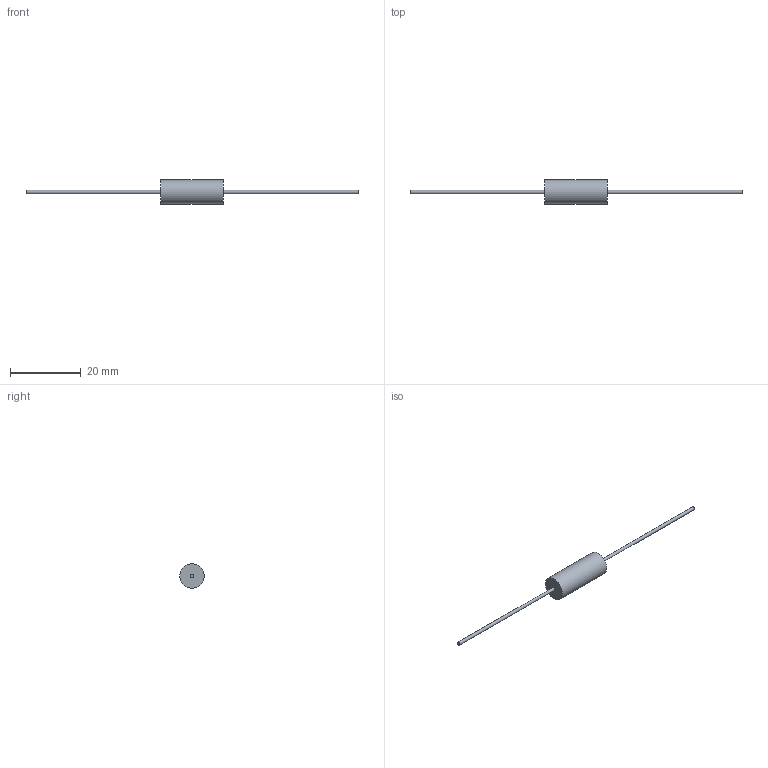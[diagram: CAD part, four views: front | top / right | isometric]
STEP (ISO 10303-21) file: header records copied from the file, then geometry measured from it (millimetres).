
FILE_DESCRIPTION(/* description */ (''),/* implementation_level */ '2;1');
FILE_NAME(/* name */ 'C:\Users\mulla\Documents\SEI Models\Inventor Files\WW_MWW_NWW_WWS\3D\WW4_WWS5_NWW4_NWWS5_stp.stp',/* time_stamp */ '2019-07-10T21:32:57-04:00',/* author */ ('mulla'),/* organization */ (''),/* preprocessor_version */ 'ST-DEVELOPER v16.1',/* originating_system */ 'Autodesk Inventor 2016',/* authorisation */ '');
FILE_SCHEMA (('AUTOMOTIVE_DESIGN { 1 0 10303 214 3 1 1 }'));
Length unit declared in the file: millimetre
Products named in the file (1): WW4_WWS5_NWW4_NWWS5
Bounding box: 93.98 x 6.86 x 6.86 mm (x, y, z)
Volume: 706.7 mm3; surface area: 677.5 mm2
Topology: 3 solids, 3 shells, 9 faces, 9 edges, 6 vertices
Faces by surface type: plane 6, cylinder 3
Full cylindrical faces by diameter (mm): 0.91 x2, 6.86 x1
Entity records: 199 total; most frequent: DIRECTION 32, CARTESIAN_POINT 22, AXIS2_PLACEMENT_3D 16, EDGE_LOOP 12, ORIENTED_EDGE 12, STYLED_ITEM 12, FACE_OUTER_BOUND 9, ADVANCED_FACE 9
